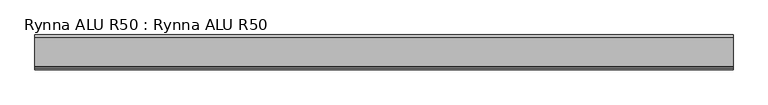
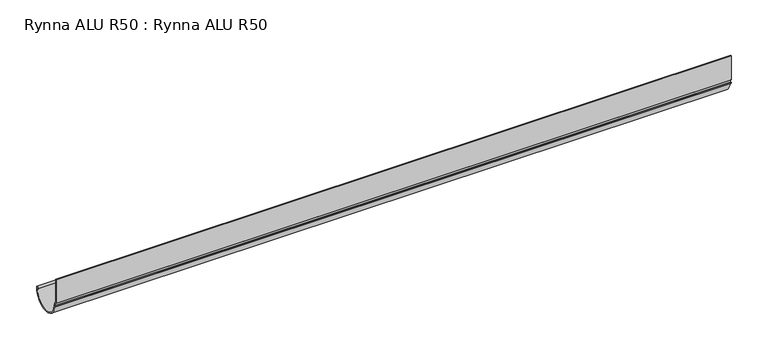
"""IFC4 building model written with IfcOpenShell, lengths in millimetres: proxy geometry, Rynna ALU R50 : Rynna ALU R50."""

from ifc_helpers import new_model, si_unit, point, frame, frame_2d, origin, place, context, project, spatial, polyline, circle_curve, trimmed, segment, composite_curve, outline, extrude, source, transform, mapped, element, save


def rynna_alu_r50_rynna_alu_r50_996ab828(model_context):
    return source(origin(), model_context, "Body", "SweptSolid", [
        extrude(outline(composite_curve([segment(polyline([(-0.6978396, 0.0), (0.7021617, 0.0), (0.7021617, -38.7702547), (3.0707013, -41.065916), (3.9370468, -46.8196069)]), True, "CONTINUOUS"), segment(trimmed(circle_curve(frame_2d((27.3646611, -44.302303)), 23.5624686), [point((3.9370468, -46.8196069))], [point((50.8512717, -46.1914952))], True, "CARTESIAN"), True, "CONTINUOUS"), segment(trimmed(circle_curve(frame_2d((50.3771937, -44.3000011)), 1.95), [point((50.8512717, -46.1914952))], [point((52.3271923, -44.302303))], False, "CARTESIAN"), True, "CONTINUOUS"), segment(trimmed(circle_curve(frame_2d((27.3646611, -44.302303)), 24.9625312), [point((52.3271923, -44.302303))], [point((2.6292486, -47.6619658))], False, "CARTESIAN"), True, "CONTINUOUS"), segment(polyline([(2.6292486, -47.6619658), (-0.1767814, -46.0765907), (-0.9565767, -44.1281649), (2.328284, -45.5225054), (1.8149767, -41.8701356), (-0.6978396, -39.5252625), (-0.6978396, 0.0)]), True, "CONTINUOUS")], self_intersect=False)), frame((-532.536273, 0.0, 0.0), z_axis=(1.0, 0.0, 0.0), x_axis=(0.0, 1.0, 0.0)), (0.0, 0.0, 1.0), 1065.072546),
    ])


if __name__ == "__main__":
    model = new_model("IFC4")
    model_context = context("Model", 3, world=origin())
    ifc_project = project(units=[si_unit("LENGTHUNIT", "METRE", prefix="MILLI")], contexts=[model_context])
    site = spatial("IfcSite", under=ifc_project)
    building = spatial("IfcBuilding", under=site)
    placement = place(None, origin())
    rynna_alu_r50_rynna_alu_r50_shape = rynna_alu_r50_rynna_alu_r50_996ab828(model_context)
    element("IfcBuildingElementProxy", 1, Name="Rynna ALU R50 : Rynna ALU R50", ObjectType="Rynna ALU R50 : Rynna ALU R50", at=placement, inside=building, context=model_context, shape_type="MappedRepresentation", body=[
        mapped(rynna_alu_r50_rynna_alu_r50_shape, transform((0.0, 0.0, 0.0), x_axis=(1.0, 0.0, 0.0), y_axis=(0.0, 1.0, 0.0), z_axis=(0.0, 0.0, 1.0))),
    ])
    save(model, "model.ifc")
